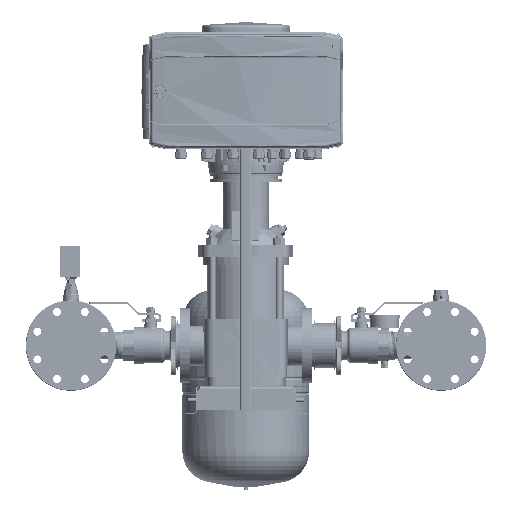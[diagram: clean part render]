
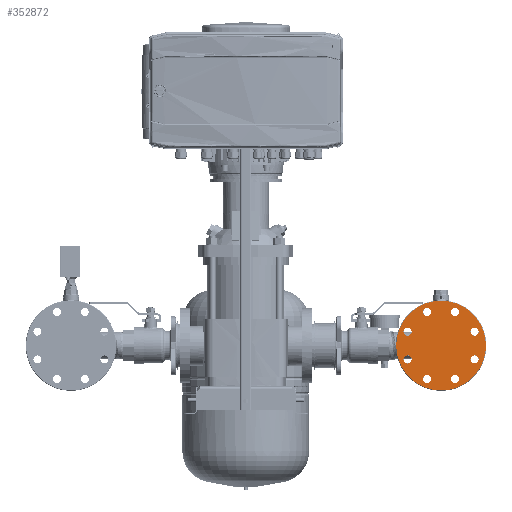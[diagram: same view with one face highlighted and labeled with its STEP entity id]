
A CAD part, left-side view. The second image highlights one B-rep face of the part: STEP entity #352872.
In plain terms, the highlighted planar face has unit normal (-1, 0, 0) as drawn and (1, 0, 0) by its records, which use the part's own axes.
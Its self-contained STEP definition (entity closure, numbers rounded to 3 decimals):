
#352266=CARTESIAN_POINT('Vertex',(20.,-38.513,69.596)) ;
#352271=CARTESIAN_POINT('Axis2P3D Location',(20.,-30.615,73.91)) ;
#352275=CARTESIAN_POINT('Vertex',(20.,-22.716,78.225)) ;
#352297=CARTESIAN_POINT('Axis2P3D Location',(20.,-30.615,73.91)) ;
#352323=CARTESIAN_POINT('Vertex',(20.,21.979,76.444)) ;
#352328=CARTESIAN_POINT('Axis2P3D Location',(20.,30.615,73.91)) ;
#352332=CARTESIAN_POINT('Vertex',(20.,39.251,71.377)) ;
#352354=CARTESIAN_POINT('Axis2P3D Location',(20.,30.615,73.91)) ;
#352380=CARTESIAN_POINT('Vertex',(20.,69.596,38.513)) ;
#352385=CARTESIAN_POINT('Axis2P3D Location',(20.,73.91,30.615)) ;
#352389=CARTESIAN_POINT('Vertex',(20.,78.225,22.716)) ;
#352411=CARTESIAN_POINT('Axis2P3D Location',(20.,73.91,30.615)) ;
#352437=CARTESIAN_POINT('Vertex',(20.,76.444,-21.979)) ;
#352442=CARTESIAN_POINT('Axis2P3D Location',(20.,73.91,-30.615)) ;
#352446=CARTESIAN_POINT('Vertex',(20.,71.377,-39.251)) ;
#352468=CARTESIAN_POINT('Axis2P3D Location',(20.,73.91,-30.615)) ;
#352494=CARTESIAN_POINT('Vertex',(20.,38.513,-69.596)) ;
#352499=CARTESIAN_POINT('Axis2P3D Location',(20.,30.615,-73.91)) ;
#352503=CARTESIAN_POINT('Vertex',(20.,22.716,-78.225)) ;
#352525=CARTESIAN_POINT('Axis2P3D Location',(20.,30.615,-73.91)) ;
#352551=CARTESIAN_POINT('Vertex',(20.,-21.979,-76.444)) ;
#352556=CARTESIAN_POINT('Axis2P3D Location',(20.,-30.615,-73.91)) ;
#352560=CARTESIAN_POINT('Vertex',(20.,-39.251,-71.377)) ;
#352582=CARTESIAN_POINT('Axis2P3D Location',(20.,-30.615,-73.91)) ;
#352608=CARTESIAN_POINT('Vertex',(20.,-69.596,-38.513)) ;
#352613=CARTESIAN_POINT('Axis2P3D Location',(20.,-73.91,-30.615)) ;
#352617=CARTESIAN_POINT('Vertex',(20.,-78.225,-22.716)) ;
#352639=CARTESIAN_POINT('Axis2P3D Location',(20.,-73.91,-30.615)) ;
#352665=CARTESIAN_POINT('Vertex',(20.,-76.444,21.979)) ;
#352670=CARTESIAN_POINT('Axis2P3D Location',(20.,-73.91,30.615)) ;
#352674=CARTESIAN_POINT('Vertex',(20.,-71.377,39.251)) ;
#352696=CARTESIAN_POINT('Axis2P3D Location',(20.,-73.91,30.615)) ;
#352817=CARTESIAN_POINT('Axis2P3D Location',(20.,0.,0.)) ;
#352822=CARTESIAN_POINT('Axis2P3D Location',(20.,0.,0.)) ;
#352826=CARTESIAN_POINT('Vertex',(20.,-99.,0.)) ;
#352828=CARTESIAN_POINT('Vertex',(20.,99.,0.)) ;
#352831=CARTESIAN_POINT('Axis2P3D Location',(20.,0.,0.)) ;
#352272=DIRECTION('Axis2P3D Direction',(1.,0.,-0.)) ;
#352298=DIRECTION('Axis2P3D Direction',(1.,0.,-0.)) ;
#352329=DIRECTION('Axis2P3D Direction',(1.,-0.,0.)) ;
#352355=DIRECTION('Axis2P3D Direction',(1.,-0.,0.)) ;
#352386=DIRECTION('Axis2P3D Direction',(1.,0.,0.)) ;
#352412=DIRECTION('Axis2P3D Direction',(1.,0.,0.)) ;
#352443=DIRECTION('Axis2P3D Direction',(1.,0.,0.)) ;
#352469=DIRECTION('Axis2P3D Direction',(1.,0.,0.)) ;
#352500=DIRECTION('Axis2P3D Direction',(1.,0.,0.)) ;
#352526=DIRECTION('Axis2P3D Direction',(1.,0.,0.)) ;
#352557=DIRECTION('Axis2P3D Direction',(1.,0.,0.)) ;
#352583=DIRECTION('Axis2P3D Direction',(1.,0.,0.)) ;
#352614=DIRECTION('Axis2P3D Direction',(1.,0.,-0.)) ;
#352640=DIRECTION('Axis2P3D Direction',(1.,0.,-0.)) ;
#352671=DIRECTION('Axis2P3D Direction',(1.,0.,-0.)) ;
#352697=DIRECTION('Axis2P3D Direction',(1.,0.,-0.)) ;
#352818=DIRECTION('Axis2P3D Direction',(1.,0.,0.)) ;
#352819=DIRECTION('Axis2P3D XDirection',(0.,1.,0.)) ;
#352823=DIRECTION('Axis2P3D Direction',(1.,0.,0.)) ;
#352832=DIRECTION('Axis2P3D Direction',(1.,0.,0.)) ;
#352273=AXIS2_PLACEMENT_3D('Circle Axis2P3D',#352271,#352272,$) ;
#352299=AXIS2_PLACEMENT_3D('Circle Axis2P3D',#352297,#352298,$) ;
#352330=AXIS2_PLACEMENT_3D('Circle Axis2P3D',#352328,#352329,$) ;
#352356=AXIS2_PLACEMENT_3D('Circle Axis2P3D',#352354,#352355,$) ;
#352387=AXIS2_PLACEMENT_3D('Circle Axis2P3D',#352385,#352386,$) ;
#352413=AXIS2_PLACEMENT_3D('Circle Axis2P3D',#352411,#352412,$) ;
#352444=AXIS2_PLACEMENT_3D('Circle Axis2P3D',#352442,#352443,$) ;
#352470=AXIS2_PLACEMENT_3D('Circle Axis2P3D',#352468,#352469,$) ;
#352501=AXIS2_PLACEMENT_3D('Circle Axis2P3D',#352499,#352500,$) ;
#352527=AXIS2_PLACEMENT_3D('Circle Axis2P3D',#352525,#352526,$) ;
#352558=AXIS2_PLACEMENT_3D('Circle Axis2P3D',#352556,#352557,$) ;
#352584=AXIS2_PLACEMENT_3D('Circle Axis2P3D',#352582,#352583,$) ;
#352615=AXIS2_PLACEMENT_3D('Circle Axis2P3D',#352613,#352614,$) ;
#352641=AXIS2_PLACEMENT_3D('Circle Axis2P3D',#352639,#352640,$) ;
#352672=AXIS2_PLACEMENT_3D('Circle Axis2P3D',#352670,#352671,$) ;
#352698=AXIS2_PLACEMENT_3D('Circle Axis2P3D',#352696,#352697,$) ;
#352820=AXIS2_PLACEMENT_3D('Plane Axis2P3D',#352817,#352818,#352819) ;
#352824=AXIS2_PLACEMENT_3D('Circle Axis2P3D',#352822,#352823,$) ;
#352833=AXIS2_PLACEMENT_3D('Circle Axis2P3D',#352831,#352832,$) ;
#352274=CIRCLE('generated circle',#352273,9.) ;
#352300=CIRCLE('generated circle',#352299,9.) ;
#352331=CIRCLE('generated circle',#352330,9.) ;
#352357=CIRCLE('generated circle',#352356,9.) ;
#352388=CIRCLE('generated circle',#352387,9.) ;
#352414=CIRCLE('generated circle',#352413,9.) ;
#352445=CIRCLE('generated circle',#352444,9.) ;
#352471=CIRCLE('generated circle',#352470,9.) ;
#352502=CIRCLE('generated circle',#352501,9.) ;
#352528=CIRCLE('generated circle',#352527,9.) ;
#352559=CIRCLE('generated circle',#352558,9.) ;
#352585=CIRCLE('generated circle',#352584,9.) ;
#352616=CIRCLE('generated circle',#352615,9.) ;
#352642=CIRCLE('generated circle',#352641,9.) ;
#352673=CIRCLE('generated circle',#352672,9.) ;
#352699=CIRCLE('generated circle',#352698,9.) ;
#352825=CIRCLE('generated circle',#352824,99.) ;
#352834=CIRCLE('generated circle',#352833,99.) ;
#352821=PLANE('',#352820) ;
#352843=FACE_BOUND('',#352840,.T.) ;
#352847=FACE_BOUND('',#352844,.T.) ;
#352851=FACE_BOUND('',#352848,.T.) ;
#352855=FACE_BOUND('',#352852,.T.) ;
#352859=FACE_BOUND('',#352856,.T.) ;
#352863=FACE_BOUND('',#352860,.T.) ;
#352867=FACE_BOUND('',#352864,.T.) ;
#352871=FACE_BOUND('',#352868,.T.) ;
#352277=EDGE_CURVE('',#352267,#352276,#352274,.T.) ;
#352301=EDGE_CURVE('',#352276,#352267,#352300,.T.) ;
#352334=EDGE_CURVE('',#352324,#352333,#352331,.T.) ;
#352358=EDGE_CURVE('',#352333,#352324,#352357,.T.) ;
#352391=EDGE_CURVE('',#352381,#352390,#352388,.T.) ;
#352415=EDGE_CURVE('',#352390,#352381,#352414,.T.) ;
#352448=EDGE_CURVE('',#352438,#352447,#352445,.T.) ;
#352472=EDGE_CURVE('',#352447,#352438,#352471,.T.) ;
#352505=EDGE_CURVE('',#352495,#352504,#352502,.T.) ;
#352529=EDGE_CURVE('',#352504,#352495,#352528,.T.) ;
#352562=EDGE_CURVE('',#352552,#352561,#352559,.T.) ;
#352586=EDGE_CURVE('',#352561,#352552,#352585,.T.) ;
#352619=EDGE_CURVE('',#352609,#352618,#352616,.T.) ;
#352643=EDGE_CURVE('',#352618,#352609,#352642,.T.) ;
#352676=EDGE_CURVE('',#352666,#352675,#352673,.T.) ;
#352700=EDGE_CURVE('',#352675,#352666,#352699,.T.) ;
#352830=EDGE_CURVE('',#352827,#352829,#352825,.T.) ;
#352835=EDGE_CURVE('',#352829,#352827,#352834,.T.) ;
#352837=ORIENTED_EDGE('',*,*,#352830,.T.) ;
#352838=ORIENTED_EDGE('',*,*,#352835,.T.) ;
#352841=ORIENTED_EDGE('',*,*,#352334,.F.) ;
#352842=ORIENTED_EDGE('',*,*,#352358,.F.) ;
#352845=ORIENTED_EDGE('',*,*,#352301,.F.) ;
#352846=ORIENTED_EDGE('',*,*,#352277,.F.) ;
#352849=ORIENTED_EDGE('',*,*,#352391,.F.) ;
#352850=ORIENTED_EDGE('',*,*,#352415,.F.) ;
#352853=ORIENTED_EDGE('',*,*,#352448,.F.) ;
#352854=ORIENTED_EDGE('',*,*,#352472,.F.) ;
#352857=ORIENTED_EDGE('',*,*,#352505,.F.) ;
#352858=ORIENTED_EDGE('',*,*,#352529,.F.) ;
#352861=ORIENTED_EDGE('',*,*,#352562,.F.) ;
#352862=ORIENTED_EDGE('',*,*,#352586,.F.) ;
#352865=ORIENTED_EDGE('',*,*,#352619,.F.) ;
#352866=ORIENTED_EDGE('',*,*,#352643,.F.) ;
#352869=ORIENTED_EDGE('',*,*,#352676,.F.) ;
#352870=ORIENTED_EDGE('',*,*,#352700,.F.) ;
#352836=EDGE_LOOP('',(#352837,#352838)) ;
#352840=EDGE_LOOP('',(#352841,#352842)) ;
#352844=EDGE_LOOP('',(#352845,#352846)) ;
#352848=EDGE_LOOP('',(#352849,#352850)) ;
#352852=EDGE_LOOP('',(#352853,#352854)) ;
#352856=EDGE_LOOP('',(#352857,#352858)) ;
#352860=EDGE_LOOP('',(#352861,#352862)) ;
#352864=EDGE_LOOP('',(#352865,#352866)) ;
#352868=EDGE_LOOP('',(#352869,#352870)) ;
#352267=VERTEX_POINT('',#352266) ;
#352276=VERTEX_POINT('',#352275) ;
#352324=VERTEX_POINT('',#352323) ;
#352333=VERTEX_POINT('',#352332) ;
#352381=VERTEX_POINT('',#352380) ;
#352390=VERTEX_POINT('',#352389) ;
#352438=VERTEX_POINT('',#352437) ;
#352447=VERTEX_POINT('',#352446) ;
#352495=VERTEX_POINT('',#352494) ;
#352504=VERTEX_POINT('',#352503) ;
#352552=VERTEX_POINT('',#352551) ;
#352561=VERTEX_POINT('',#352560) ;
#352609=VERTEX_POINT('',#352608) ;
#352618=VERTEX_POINT('',#352617) ;
#352666=VERTEX_POINT('',#352665) ;
#352675=VERTEX_POINT('',#352674) ;
#352827=VERTEX_POINT('',#352826) ;
#352829=VERTEX_POINT('',#352828) ;
#352872=ADVANCED_FACE('PartBody',(#352839,#352843,#352847,#352851,#352855,#352859,#352863,#352867,#352871),#352821,.T.) ;
#352839=FACE_OUTER_BOUND('',#352836,.T.) ;
